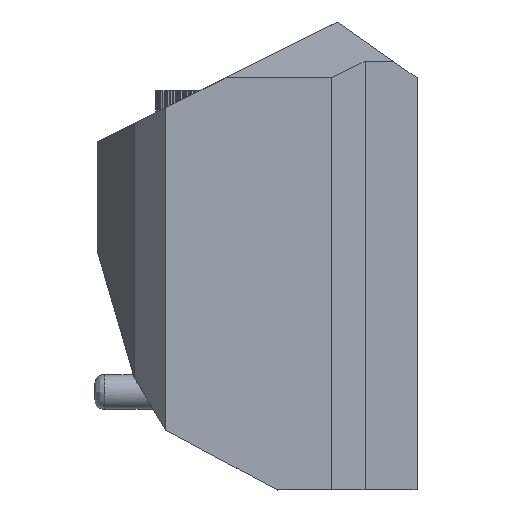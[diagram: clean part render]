
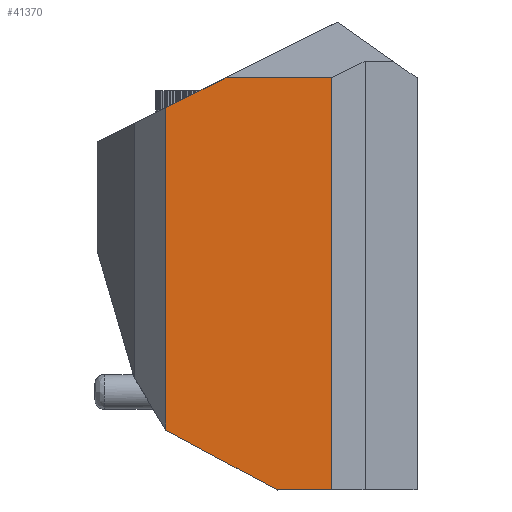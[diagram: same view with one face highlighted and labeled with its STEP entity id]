
A CAD part, left-side view. The second image highlights one B-rep face of the part: STEP entity #41370.
In plain terms, the highlighted planar face has unit normal (-1, 0, 0).
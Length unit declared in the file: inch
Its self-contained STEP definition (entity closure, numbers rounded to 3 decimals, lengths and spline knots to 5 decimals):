
#10695 = DIRECTION ( 'NONE',  ( 0., 0.88, 0.475 ) ) ;
#10696 = VECTOR ( 'NONE', #10695, 39.37008 ) ;
#10697 = CARTESIAN_POINT ( 'NONE',  ( -0.875, 1.5839, 0.3825 ) ) ;
#10727 = LINE ( 'NONE', #10697, #10696 ) ;
#10733 = CARTESIAN_POINT ( 'NONE',  ( -0.875, 0.875, 0. ) ) ;
#10734 = DIRECTION ( 'NONE',  ( 0., 1., 0. ) ) ;
#10735 = VECTOR ( 'NONE', #10734, 39.37008 ) ;
#10736 = CARTESIAN_POINT ( 'NONE',  ( -0.875, 1.59056, 0. ) ) ;
#10737 = LINE ( 'NONE', #10736, #10735 ) ;
#10777 = DIRECTION ( 'NONE',  ( 0., 0., -1. ) ) ;
#10778 = DIRECTION ( 'NONE',  ( 1., 0., 0. ) ) ;
#10779 = CARTESIAN_POINT ( 'NONE',  ( -0.875, 1.59056, -0.0515 ) ) ;
#10780 = AXIS2_PLACEMENT_3D ( 'NONE', #10779, #10778, #10777 ) ;
#10781 = PLANE ( 'NONE',  #10780 ) ;
#10782 = FACE_OUTER_BOUND ( 'NONE', #41371, .T. ) ;
#10783 = DIRECTION ( 'NONE',  ( 0., 0., 1. ) ) ;
#10784 = VECTOR ( 'NONE', #10783, 39.37008 ) ;
#10785 = CARTESIAN_POINT ( 'NONE',  ( -0.875, 1.56991, -0.0515 ) ) ;
#10786 = LINE ( 'NONE', #10785, #10784 ) ;
#10853 = CARTESIAN_POINT ( 'NONE',  ( -0.875, 0.53714, 0. ) ) ;
#10854 = DIRECTION ( 'NONE',  ( 0., 0., -1. ) ) ;
#10855 = VECTOR ( 'NONE', #10854, 39.37008 ) ;
#10856 = CARTESIAN_POINT ( 'NONE',  ( -0.875, 0.53714, -0.0515 ) ) ;
#10857 = LINE ( 'NONE', #10856, #10855 ) ;
#11433 = CARTESIAN_POINT ( 'NONE',  ( -0.87498, 1.56995, 0.37495 ) ) ;
#11817 = CARTESIAN_POINT ( 'NONE',  ( -0.875, 0.53714, 2.575 ) ) ;
#11820 = DIRECTION ( 'NONE',  ( 0., -1., 0. ) ) ;
#11822 = VECTOR ( 'NONE', #11820, 39.37008 ) ;
#11824 = CARTESIAN_POINT ( 'NONE',  ( -0.875, 1.59056, 2.575 ) ) ;
#11825 = LINE ( 'NONE', #11824, #11822 ) ;
#11848 = CARTESIAN_POINT ( 'NONE',  ( -0.875, 1.2, 2.575 ) ) ;
#11849 = DIRECTION ( 'NONE',  ( 0., -0.894, 0.447 ) ) ;
#11850 = VECTOR ( 'NONE', #11849, 39.37008 ) ;
#11851 = CARTESIAN_POINT ( 'NONE',  ( -0.875, 1.56991, 2.39005 ) ) ;
#11852 = LINE ( 'NONE', #11851, #11850 ) ;
#11857 = CARTESIAN_POINT ( 'NONE',  ( -0.875, 1.56991, 2.39005 ) ) ;
#41310 = EDGE_CURVE ( 'NONE', #41589, #41311, #10857, .T. ) ;
#41311 = VERTEX_POINT ( 'NONE', #10853 ) ;
#41349 = EDGE_CURVE ( 'NONE', #41311, #41350, #10737, .T. ) ;
#41350 = VERTEX_POINT ( 'NONE', #10733 ) ;
#41362 = EDGE_CURVE ( 'NONE', #41350, #41554, #10727, .T. ) ;
#41368 = EDGE_CURVE ( 'NONE', #41554, #41577, #10786, .T. ) ;
#41370 = ADVANCED_FACE ( 'NONE', ( #10782 ), #10781, .F. ) ;
#41371 = EDGE_LOOP ( 'NONE', ( #41372, #41373, #41374, #41375, #41376, #41377 ) ) ;
#41372 = ORIENTED_EDGE ( 'NONE', *, *, #41362, .F. ) ;
#41373 = ORIENTED_EDGE ( 'NONE', *, *, #41349, .F. ) ;
#41374 = ORIENTED_EDGE ( 'NONE', *, *, #41310, .F. ) ;
#41375 = ORIENTED_EDGE ( 'NONE', *, *, #41588, .F. ) ;
#41376 = ORIENTED_EDGE ( 'NONE', *, *, #41579, .F. ) ;
#41377 = ORIENTED_EDGE ( 'NONE', *, *, #41368, .F. ) ;
#41554 = VERTEX_POINT ( 'NONE', #11433 ) ;
#41577 = VERTEX_POINT ( 'NONE', #11857 ) ;
#41579 = EDGE_CURVE ( 'NONE', #41577, #41580, #11852, .T. ) ;
#41580 = VERTEX_POINT ( 'NONE', #11848 ) ;
#41588 = EDGE_CURVE ( 'NONE', #41580, #41589, #11825, .T. ) ;
#41589 = VERTEX_POINT ( 'NONE', #11817 ) ;
